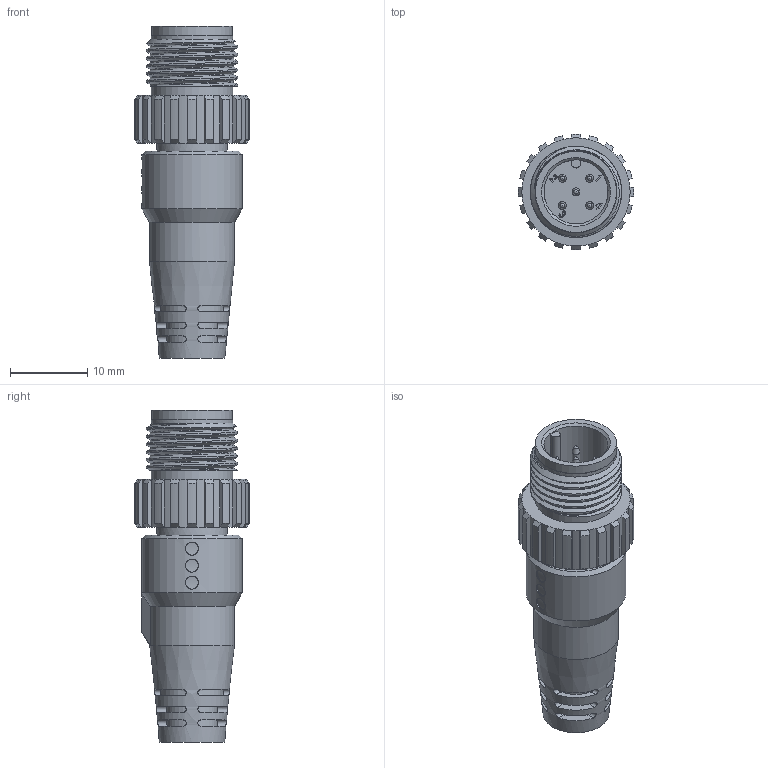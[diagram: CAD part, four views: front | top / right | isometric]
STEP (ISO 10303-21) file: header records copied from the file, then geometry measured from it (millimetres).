
FILE_DESCRIPTION (( 'STEP AP203' ), '1' );
FILE_NAME ('CM02B-8DER5P.STEP', '2022-04-08T12:21:33', ( '' ), ( '' ), 'SwSTEP 2.0', 'SolidWorks 2018', '' );
FILE_SCHEMA (( 'CONFIG_CONTROL_DESIGN' ));
Length unit declared in the file: millimetre
Products named in the file (1): CM02B-8DER5P
Bounding box: 15 x 15 x 43 mm (x, y, z)
Volume: 4095.1 mm3; surface area: 2648.3 mm2
Topology: 1 solids, 1 shells, 311 faces, 764 edges, 481 vertices
Faces by surface type: plane 116, cylinder 93, cone 51, bspline 46, sphere 5
Full cylindrical faces by diameter (mm): 1.01 x5, 8.3 x1, 9.1 x1, 10.5 x1, 10.6 x2, 13 x1
Entity records: 12384 total; most frequent: CARTESIAN_POINT 5660, ORIENTED_EDGE 1430, DIRECTION 1225, EDGE_CURVE 715, AXIS2_PLACEMENT_3D 472, VERTEX_POINT 460, EDGE_LOOP 365, FACE_OUTER_BOUND 325
